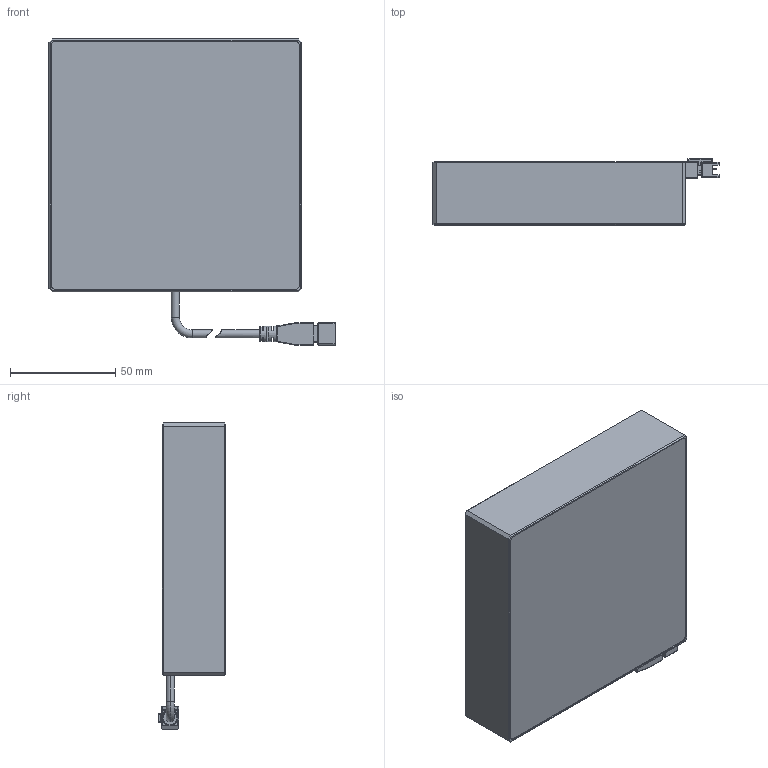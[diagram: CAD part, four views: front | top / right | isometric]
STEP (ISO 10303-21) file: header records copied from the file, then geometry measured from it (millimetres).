
FILE_DESCRIPTION((''),'2;1');
FILE_NAME('P-FQ-48-JIANYI3D_ASM','2015-03-24T',('Administrator'),(''),'PRO/ENGINEER BY PARAMETRIC TECHNOLOGY CORPORATION, 2011220','PRO/ENGINEER BY PARAMETRIC TECHNOLOGY CORPORATION, 2011220','');
FILE_SCHEMA(('CONFIG_CONTROL_DESIGN'));
Length unit declared in the file: millimetre
Products named in the file (3): P-FQ-48-3D; LINE_TOU-_TM; P-FQ-48-JIANYI3D_ASM
Assembly tree (2 placements, depth 2):
  P-FQ-48-JIANYI3D_ASM
    P-FQ-48-3D
    LINE_TOU-_TM
Bounding box: 135.8 x 31.75 x 145.25 mm (x, y, z)
Volume: 427279.5 mm3; surface area: 46033 mm2
Topology: 3 solids, 7 shells, 287 faces, 714 edges, 442 vertices
Faces by surface type: plane 162, cylinder 83, cone 14, torus 10, bspline 8, sphere 8, extrusion 2
Entity records: 8676 total; most frequent: CARTESIAN_POINT 1749, DIRECTION 1454, ORIENTED_EDGE 1392, EDGE_CURVE 704, AXIS2_PLACEMENT_3D 494, VECTOR 466, LINE 464, VERTEX_POINT 442
